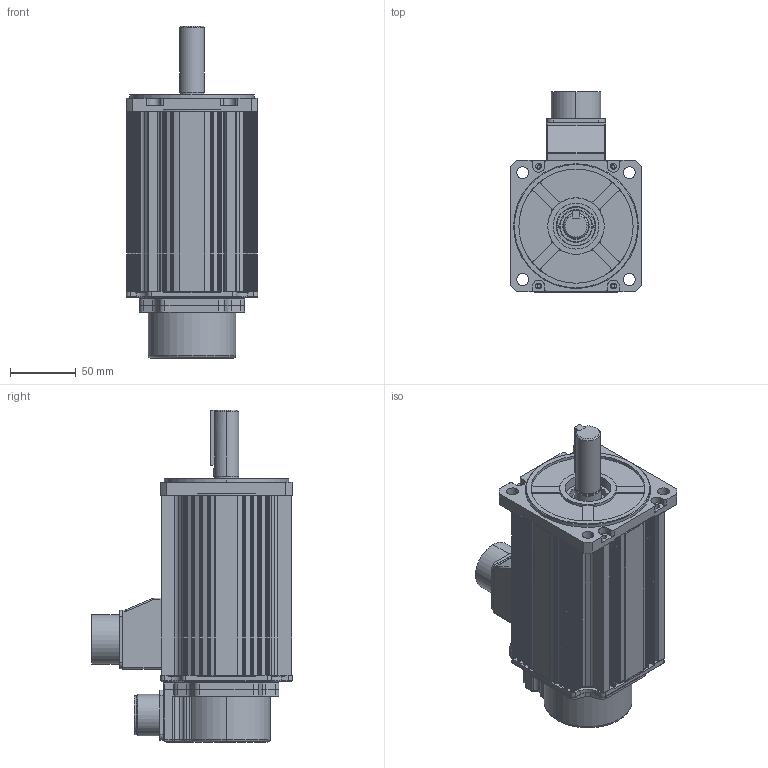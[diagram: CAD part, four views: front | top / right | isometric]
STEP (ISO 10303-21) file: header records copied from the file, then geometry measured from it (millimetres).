
FILE_DESCRIPTION (( 'STEP AP203' ), '1' );
FILE_NAME ('KANS-15DF2N2.STEP', '2024-06-30T23:18:46', ( '' ), ( '' ), 'SwSTEP 2.0', 'SolidWorks 2023', '' );
FILE_SCHEMA (( 'CONFIG_CONTROL_DESIGN' ));
Length unit declared in the file: millimetre
Products named in the file (12): SHAFT,Ø19x55,Key_표준; 10060019(BRACKET); CONNECTOR BOX_기본 설정; CONNECTOR(24-11P)_표준; 10000429(GASKET □80); 10060021(FLANGE); 3102A 20-29P; FRAME(□100,137mm); 6X6X42; 10060022(ENCODER COVER,□100.□120,MS20-29P,2of2)_표준; KANS-15DF2N2; 10060024(Encoder Cover Adapter,□100,120)_표준
Assembly tree (11 placements, depth 2):
  KANS-15DF2N2
    FRAME(□100,137mm)
    10060019(BRACKET)
    10060021(FLANGE)
    10060022(ENCODER COVER,□100.□120,MS20-29P,2of2)_표준
    10060024(Encoder Cover Adapter,□100,120)_표준
    CONNECTOR BOX_기본 설정
    3102A 20-29P
    CONNECTOR(24-11P)_표준
    SHAFT,Ø19x55,Key_표준
    6X6X42
    10000429(GASKET □80)
Bounding box: 100 x 152.42 x 252.9 mm (x, y, z)
Volume: 460316 mm3; surface area: 271475.4 mm2
Topology: 12 solids, 12 shells, 1722 faces, 4779 edges, 3123 vertices
Faces by surface type: plane 826, cylinder 759, cone 58, bspline 37, torus 36, sphere 6
Entity records: 58032 total; most frequent: CARTESIAN_POINT 11542, DIRECTION 9689, ORIENTED_EDGE 9478, EDGE_CURVE 4739, AXIS2_PLACEMENT_3D 3388, VERTEX_POINT 3123, VECTOR 2913, LINE 2913
